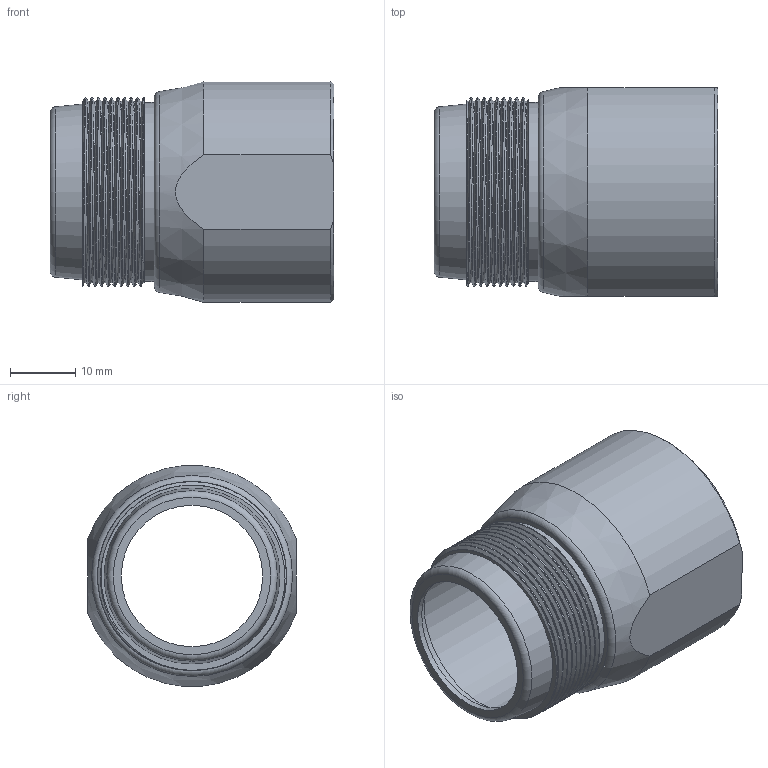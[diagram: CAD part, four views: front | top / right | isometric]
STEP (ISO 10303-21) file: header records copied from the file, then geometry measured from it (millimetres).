
FILE_DESCRIPTION (( 'STEP AP203' ), '1' );
FILE_NAME ('SH.IR3.A-»¤Ì×P-20250519.STEP', '2025-05-21T06:30:19', ( '' ), ( '' ), 'SwSTEP 2.0', 'SolidWorks 2023', '' );
FILE_SCHEMA (( 'CONFIG_CONTROL_DESIGN' ));
Length unit declared in the file: millimetre
Products named in the file (1): SH.IR3.A-护套P-20250519
Bounding box: 43.6 x 32 x 33.89 mm (x, y, z)
Volume: 11323.9 mm3; surface area: 9789 mm2
Topology: 1 solids, 1 shells, 34 faces, 71 edges, 47 vertices
Faces by surface type: plane 12, cylinder 10, bspline 6, cone 4, torus 2
Full cylindrical faces by diameter (mm): 21.72 x1, 24.3 x1, 25.1 x1, 26.5 x2, 27.5 x1
Entity records: 4675 total; most frequent: CARTESIAN_POINT 3971, DIRECTION 118, ORIENTED_EDGE 118, EDGE_CURVE 59, AXIS2_PLACEMENT_3D 56, EDGE_LOOP 54, VERTEX_POINT 45, FACE_OUTER_BOUND 42
